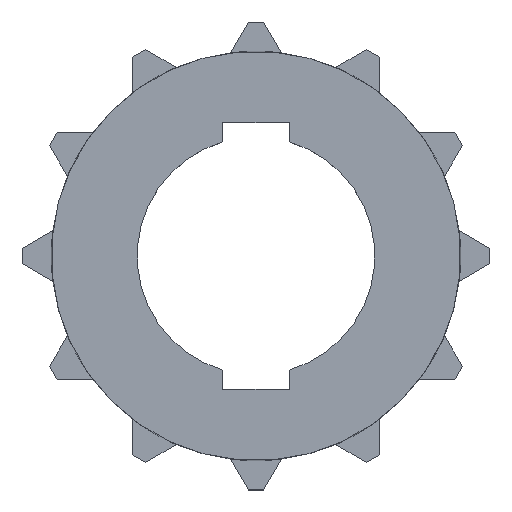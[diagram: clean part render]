
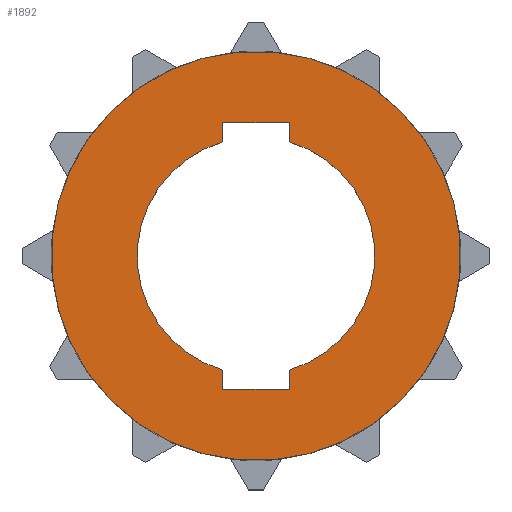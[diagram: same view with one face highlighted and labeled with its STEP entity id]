
A CAD part, top view. The second image highlights one B-rep face of the part: STEP entity #1892.
In plain terms, the highlighted planar face has unit normal (0, 0, 1).
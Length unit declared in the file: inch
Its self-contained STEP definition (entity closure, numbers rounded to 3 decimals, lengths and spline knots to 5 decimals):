
#40=CARTESIAN_POINT('',(0.,0.,0.49));
#41=DIRECTION('',(0.,0.,1.));
#42=DIRECTION('',(0.259,0.966,0.));
#43=AXIS2_PLACEMENT_3D('',#40,#41,#42);
#604=CARTESIAN_POINT('',(0.,0.,0.49));
#605=DIRECTION('',(0.,0.,1.));
#606=DIRECTION('',(0.707,0.707,0.));
#607=AXIS2_PLACEMENT_3D('',#604,#605,#606);
#609=DIRECTION('',(0.,-1.,0.));
#610=VECTOR('',#609,0.315);
#611=CARTESIAN_POINT('',(-0.551,2.20481,0.49));
#612=LINE('',#611,#610);
#613=CARTESIAN_POINT('',(0.,0.,0.49));
#614=DIRECTION('',(0.,0.,1.));
#615=DIRECTION('',(-0.28,0.96,0.));
#616=AXIS2_PLACEMENT_3D('',#613,#614,#615);
#618=DIRECTION('',(0.,-1.,0.));
#619=VECTOR('',#618,0.315);
#620=CARTESIAN_POINT('',(-0.551,-1.88981,0.49));
#621=LINE('',#620,#619);
#622=DIRECTION('',(1.,0.,0.));
#623=VECTOR('',#622,1.102);
#624=CARTESIAN_POINT('',(-0.551,-2.20481,0.49));
#625=LINE('',#624,#623);
#626=DIRECTION('',(0.,1.,0.));
#627=VECTOR('',#626,0.315);
#628=CARTESIAN_POINT('',(0.551,-2.20481,0.49));
#629=LINE('',#628,#627);
#630=CARTESIAN_POINT('',(0.,0.,0.49));
#631=DIRECTION('',(0.,0.,1.));
#632=DIRECTION('',(0.28,-0.96,0.));
#633=AXIS2_PLACEMENT_3D('',#630,#631,#632);
#635=DIRECTION('',(0.,1.,0.));
#636=VECTOR('',#635,0.315);
#637=CARTESIAN_POINT('',(0.551,1.88981,0.49));
#638=LINE('',#637,#636);
#639=DIRECTION('',(-1.,0.,0.));
#640=VECTOR('',#639,1.102);
#641=CARTESIAN_POINT('',(0.551,2.20481,0.49));
#642=LINE('',#641,#640);
#730=CARTESIAN_POINT('',(0.87775,3.27582,0.49));
#732=VERTEX_POINT('',#730);
#734=CARTESIAN_POINT('',(2.39807,2.39807,0.49));
#736=VERTEX_POINT('',#734);
#913=CARTESIAN_POINT('',(-0.551,2.20481,0.49));
#914=CARTESIAN_POINT('',(-0.551,1.88981,0.49));
#915=VERTEX_POINT('',#913);
#916=VERTEX_POINT('',#914);
#917=CARTESIAN_POINT('',(-0.551,-1.88981,0.49));
#918=VERTEX_POINT('',#917);
#919=CARTESIAN_POINT('',(-0.551,-2.20481,0.49));
#920=VERTEX_POINT('',#919);
#921=CARTESIAN_POINT('',(0.551,-2.20481,0.49));
#922=VERTEX_POINT('',#921);
#923=CARTESIAN_POINT('',(0.551,-1.88981,0.49));
#924=VERTEX_POINT('',#923);
#925=CARTESIAN_POINT('',(0.551,1.88981,0.49));
#926=VERTEX_POINT('',#925);
#927=CARTESIAN_POINT('',(0.551,2.20481,0.49));
#928=VERTEX_POINT('',#927);
#1864=CARTESIAN_POINT('',(0.,0.,0.49));
#1865=DIRECTION('',(0.,0.,1.));
#1866=DIRECTION('',(1.,0.,0.));
#1867=AXIS2_PLACEMENT_3D('',#1864,#1865,#1866);
#1868=PLANE('',#1867);
#1869=ORIENTED_EDGE('',*,*,#996,.F.);
#1871=ORIENTED_EDGE('',*,*,#1870,.F.);
#1872=EDGE_LOOP('',(#1869,#1871));
#1873=FACE_OUTER_BOUND('',#1872,.F.);
#1875=ORIENTED_EDGE('',*,*,#1874,.T.);
#1877=ORIENTED_EDGE('',*,*,#1876,.T.);
#1879=ORIENTED_EDGE('',*,*,#1878,.T.);
#1881=ORIENTED_EDGE('',*,*,#1880,.T.);
#1883=ORIENTED_EDGE('',*,*,#1882,.T.);
#1885=ORIENTED_EDGE('',*,*,#1884,.T.);
#1887=ORIENTED_EDGE('',*,*,#1886,.T.);
#1889=ORIENTED_EDGE('',*,*,#1888,.T.);
#1890=EDGE_LOOP('',(#1875,#1877,#1879,#1881,#1883,#1885,#1887,#1889));
#1891=FACE_BOUND('',#1890,.F.);
#1892=ADVANCED_FACE('',(#1873,#1891),#1868,.T.);
#44=CIRCLE('',#43,3.39138);
#608=CIRCLE('',#607,3.39138);
#617=CIRCLE('',#616,1.9685);
#634=CIRCLE('',#633,1.9685);
#996=EDGE_CURVE('',#732,#736,#44,.T.);
#1870=EDGE_CURVE('',#736,#732,#608,.T.);
#1874=EDGE_CURVE('',#915,#916,#612,.T.);
#1876=EDGE_CURVE('',#916,#918,#617,.T.);
#1878=EDGE_CURVE('',#918,#920,#621,.T.);
#1880=EDGE_CURVE('',#920,#922,#625,.T.);
#1882=EDGE_CURVE('',#922,#924,#629,.T.);
#1884=EDGE_CURVE('',#924,#926,#634,.T.);
#1886=EDGE_CURVE('',#926,#928,#638,.T.);
#1888=EDGE_CURVE('',#928,#915,#642,.T.);
